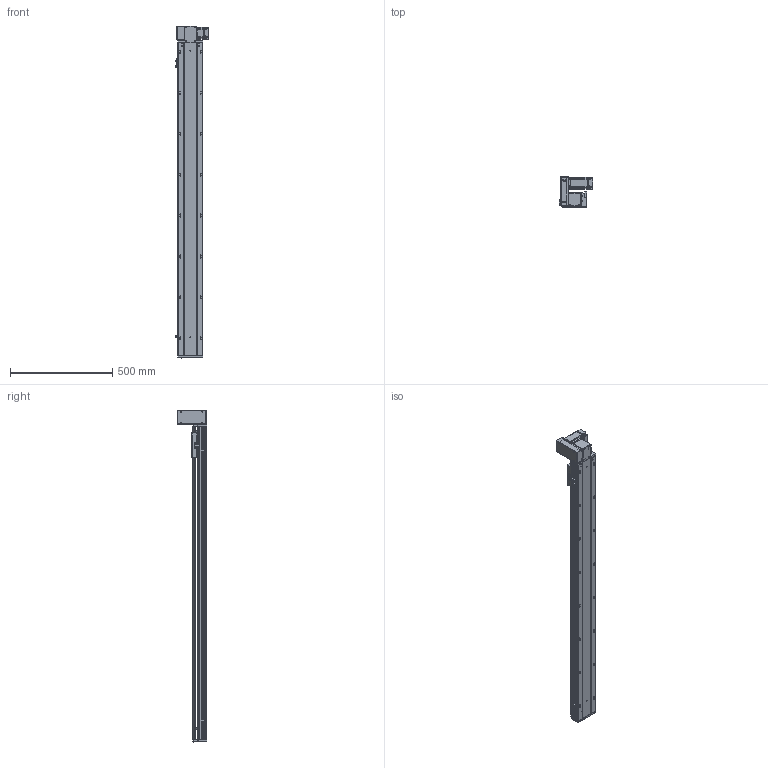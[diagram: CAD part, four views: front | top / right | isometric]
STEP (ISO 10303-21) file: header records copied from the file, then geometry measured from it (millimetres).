
FILE_DESCRIPTION (( 'STEP AP203' ), '1' );
FILE_NAME ('RY120-T-300-UL.SLDASM_1300.step', '2021-03-01T05:36:42', ( '盈信电脑' ), ( '东莞市道滘镇水果街19号' ), 'SwSTEP 2.0', 'SolidWorks 2012', '' );
FILE_SCHEMA (( 'CONFIG_CONTROL_DESIGN' ));
Length unit declared in the file: millimetre
Products named in the file (18): RY120-T-300-UL.SLDASM_1300; RY120-T翋肮祭謫裔啣; 滅袉蝶18-10; RY120-T蹟翐M4; RY120-T主同步轮轴承压盖; RY120-T萇儂欶; 侂狟400W侜督萇儂; RY120-T翋肮祭盓傅釱; RY120-T萇儂假蚾啣; 15; RY120外置感应片(140共用）; RY120-T肮祭湍揤踡輸2; RY120-T肮祭湍揤踡輸1; 覜茼ん672; RY120-T-300-UL倰第奻裔啣_1300; RY120綴裔啣; RY120肮祭湍臏賑輸; RY120-T-300-UL倰第菁釱_1300
Assembly tree (23 placements, depth 3):
  RY120-T-300-UL.SLDASM_1300
    RY120-T-300-UL倰第菁釱_1300
    RY120-T-300-UL倰第奻裔啣_1300
    RY120肮祭湍臏賑輸
    RY120綴裔啣
    覜茼ん672  x3
    RY120外置感应片(140共用）
    RY120-T肮祭湍揤踡輸1
    RY120-T肮祭湍揤踡輸2
    RY120-T翋肮祭盓傅釱
    RY120-T萇儂假蚾啣
    侂狟400W侜督萇儂
      15
    RY120-T主同步轮轴承压盖
    滅袉蝶18-10  x2
    RY120-T萇儂欶
    RY120-T蹟翐M4  x4
    RY120-T翋肮祭謫裔啣
Bounding box: 164.2 x 146 x 1621 mm (x, y, z)
Volume: 4274522.8 mm3; surface area: 1610706.6 mm2
Topology: 23 solids, 23 shells, 2894 faces, 7892 edges, 5048 vertices
Faces by surface type: plane 1422, cylinder 1112, cone 271, bspline 89
Entity records: 92308 total; most frequent: CARTESIAN_POINT 23556, ORIENTED_EDGE 14168, DIRECTION 13418, EDGE_CURVE 7084, VERTEX_POINT 4635, AXIS2_PLACEMENT_3D 4513, LINE 4392, VECTOR 4392
